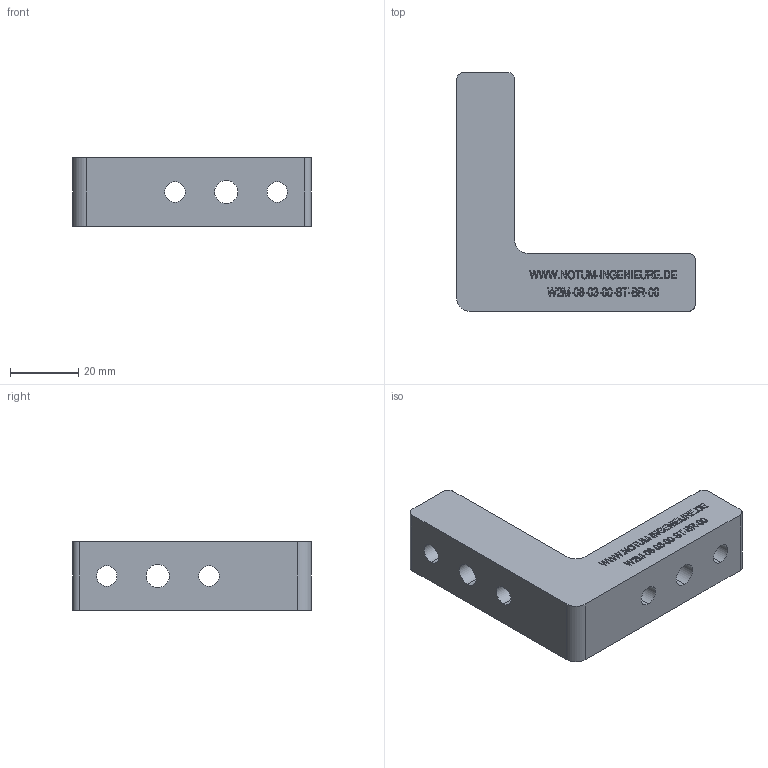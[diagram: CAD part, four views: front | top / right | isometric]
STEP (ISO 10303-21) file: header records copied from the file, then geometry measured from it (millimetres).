
FILE_DESCRIPTION (( 'STEP AP214' ), '1' );
FILE_NAME ('W2M-08-03-00-ST-BR-00__Notum.STEP', '2018-03-29T11:17:30', ( '' ), ( '' ), 'SwSTEP 2.0', 'SolidWorks 2015', '' );
FILE_SCHEMA (( 'AUTOMOTIVE_DESIGN' ));
Length unit declared in the file: millimetre
Products named in the file (1): W2M-08-03-00-ST-BR-00__Notum
Bounding box: 70 x 70 x 20 mm (x, y, z)
Volume: 38563.7 mm3; surface area: 11513 mm2
Topology: 1 solids, 1 shells, 556 faces, 1488 edges, 992 vertices
Faces by surface type: plane 357, bspline 181, cylinder 18
Entity records: 32396 total; most frequent: CARTESIAN_POINT 13826, ORIENTED_EDGE 2976, DIRECTION 1914, EDGE_CURVE 1488, VECTOR 1090, LINE 1090, VERTEX_POINT 992, EDGE_LOOP 626
